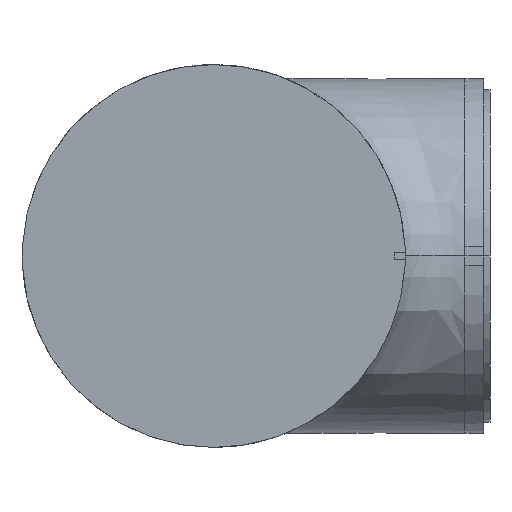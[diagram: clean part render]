
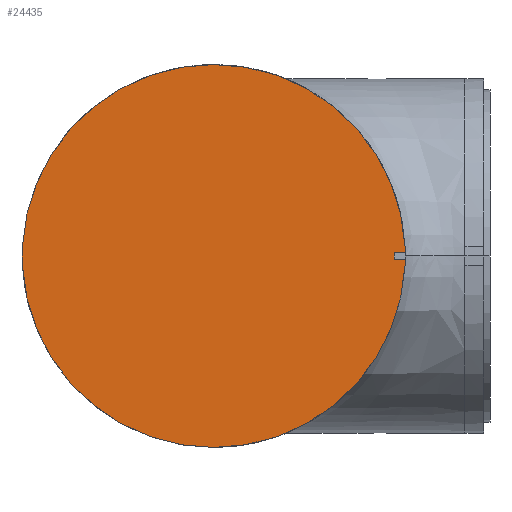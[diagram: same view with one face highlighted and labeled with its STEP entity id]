
A CAD part, left-side view. The second image highlights one B-rep face of the part: STEP entity #24435.
In plain terms, the highlighted planar face has unit normal (-1, 0, 0).
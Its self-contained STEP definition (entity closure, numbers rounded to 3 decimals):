
#1332 = EDGE_CURVE ( 'NONE', #10817, #29319, #10961, .T. ) ;
#1666 = VECTOR ( 'NONE', #1717, 1000. ) ;
#1675 = LINE ( 'NONE', #22993, #53629 ) ;
#1717 = DIRECTION ( 'NONE',  ( 0., 0.052, -0.999 ) ) ;
#1971 = CIRCLE ( 'NONE', #32923, 61. ) ;
#2676 = DIRECTION ( 'NONE',  ( 1., 0., 0. ) ) ;
#4336 = VECTOR ( 'NONE', #28418, 1000. ) ;
#4726 = EDGE_CURVE ( 'NONE', #34435, #19578, #6421, .T. ) ;
#4765 = DIRECTION ( 'NONE',  ( -1., 0., 0. ) ) ;
#6076 = VERTEX_POINT ( 'NONE', #46450 ) ;
#6421 = LINE ( 'NONE', #36079, #1666 ) ;
#6500 = CARTESIAN_POINT ( 'NONE',  ( 401., 121.016, 1185.692 ) ) ;
#7355 = CARTESIAN_POINT ( 'NONE',  ( 401., 60.1, 1121.5 ) ) ;
#7359 = ORIENTED_EDGE ( 'NONE', *, *, #14822, .T. ) ;
#7778 = EDGE_CURVE ( 'NONE', #29319, #47375, #1971, .T. ) ;
#9449 = DIRECTION ( 'NONE',  ( 0., 0., 1. ) ) ;
#9707 = CIRCLE ( 'NONE', #16790, 57.5 ) ;
#10545 = EDGE_CURVE ( 'NONE', #6076, #13146, #1675, .T. ) ;
#10553 = FACE_OUTER_BOUND ( 'NONE', #13829, .T. ) ;
#10817 = VERTEX_POINT ( 'NONE', #44354 ) ;
#10961 = LINE ( 'NONE', #23711, #4336 ) ;
#11512 = CARTESIAN_POINT ( 'NONE',  ( 401., -0.816, 1185.692 ) ) ;
#12325 = ORIENTED_EDGE ( 'NONE', *, *, #1332, .F. ) ;
#12360 = EDGE_CURVE ( 'NONE', #43976, #34435, #18046, .T. ) ;
#13146 = VERTEX_POINT ( 'NONE', #19026 ) ;
#13829 = EDGE_LOOP ( 'NONE', ( #26641, #33711, #51466, #12325, #51195, #52901, #34226, #25890, #47190, #7359 ) ) ;
#13888 = DIRECTION ( 'NONE',  ( 0., -1., 0. ) ) ;
#14320 = CARTESIAN_POINT ( 'NONE',  ( 401., 60.1, 1182.5 ) ) ;
#14332 = CIRCLE ( 'NONE', #49748, 61. ) ;
#14822 = EDGE_CURVE ( 'NONE', #43976, #13146, #9707, .T. ) ;
#15306 = CARTESIAN_POINT ( 'NONE',  ( 401., -0.816, 1179.308 ) ) ;
#16484 = CARTESIAN_POINT ( 'NONE',  ( 401., -0.984, 1182.5 ) ) ;
#16790 = AXIS2_PLACEMENT_3D ( 'NONE', #25808, #4765, #21651 ) ;
#18046 = LINE ( 'NONE', #51863, #50964 ) ;
#18297 = DIRECTION ( 'NONE',  ( 0., 0., 1. ) ) ;
#19026 = CARTESIAN_POINT ( 'NONE',  ( 401., 2.609, 1183.5 ) ) ;
#19578 = VERTEX_POINT ( 'NONE', #15306 ) ;
#21651 = DIRECTION ( 'NONE',  ( 0., 0., 1. ) ) ;
#22638 = DIRECTION ( 'NONE',  ( 0., 0., 1. ) ) ;
#22993 = CARTESIAN_POINT ( 'NONE',  ( 401., 8.1, 1183.5 ) ) ;
#23711 = CARTESIAN_POINT ( 'NONE',  ( 401., 121.016, 1185.692 ) ) ;
#23866 = VERTEX_POINT ( 'NONE', #7355 ) ;
#24435 = ADVANCED_FACE ( 'NONE', ( #10553 ), #35230, .T. ) ;
#25808 = CARTESIAN_POINT ( 'NONE',  ( 401., 60.1, 1182.5 ) ) ;
#25890 = ORIENTED_EDGE ( 'NONE', *, *, #4726, .F. ) ;
#26596 = DIRECTION ( 'NONE',  ( 0., 1., 0. ) ) ;
#26641 = ORIENTED_EDGE ( 'NONE', *, *, #10545, .F. ) ;
#27454 = VECTOR ( 'NONE', #45883, 1000. ) ;
#27675 = EDGE_CURVE ( 'NONE', #19578, #23866, #14332, .T. ) ;
#28418 = DIRECTION ( 'NONE',  ( 0., -0.052, 0.999 ) ) ;
#28672 = CARTESIAN_POINT ( 'NONE',  ( 401., 121.016, 1179.308 ) ) ;
#29319 = VERTEX_POINT ( 'NONE', #6500 ) ;
#29512 = CIRCLE ( 'NONE', #42814, 61. ) ;
#29896 = EDGE_CURVE ( 'NONE', #35396, #10817, #37439, .T. ) ;
#31397 = EDGE_CURVE ( 'NONE', #47375, #6076, #41460, .T. ) ;
#31425 = CARTESIAN_POINT ( 'NONE',  ( 401., 2.609, 1181.5 ) ) ;
#31880 = DIRECTION ( 'NONE',  ( 1., 0., 0. ) ) ;
#32923 = AXIS2_PLACEMENT_3D ( 'NONE', #48516, #31880, #18297 ) ;
#33711 = ORIENTED_EDGE ( 'NONE', *, *, #31397, .F. ) ;
#34226 = ORIENTED_EDGE ( 'NONE', *, *, #27675, .F. ) ;
#34435 = VERTEX_POINT ( 'NONE', #34924 ) ;
#34924 = CARTESIAN_POINT ( 'NONE',  ( 401., -0.931, 1181.5 ) ) ;
#35230 = PLANE ( 'NONE',  #42489 ) ;
#35396 = VERTEX_POINT ( 'NONE', #28672 ) ;
#35678 = DIRECTION ( 'NONE',  ( 1., 0., 0. ) ) ;
#36079 = CARTESIAN_POINT ( 'NONE',  ( 401., -0.984, 1182.5 ) ) ;
#36639 = CARTESIAN_POINT ( 'NONE',  ( 401., 121.016, 1179.308 ) ) ;
#37439 = LINE ( 'NONE', #36639, #53148 ) ;
#37717 = DIRECTION ( 'NONE',  ( 0., 0.052, 0.999 ) ) ;
#40634 = EDGE_CURVE ( 'NONE', #23866, #35396, #29512, .T. ) ;
#40641 = CARTESIAN_POINT ( 'NONE',  ( 401., 60.1, 1182.5 ) ) ;
#41460 = LINE ( 'NONE', #16484, #27454 ) ;
#42489 = AXIS2_PLACEMENT_3D ( 'NONE', #47430, #47704, #9449 ) ;
#42814 = AXIS2_PLACEMENT_3D ( 'NONE', #14320, #35678, #22638 ) ;
#43976 = VERTEX_POINT ( 'NONE', #31425 ) ;
#44354 = CARTESIAN_POINT ( 'NONE',  ( 401., 121.184, 1182.5 ) ) ;
#45883 = DIRECTION ( 'NONE',  ( 0., -0.052, -0.999 ) ) ;
#46450 = CARTESIAN_POINT ( 'NONE',  ( 401., -0.931, 1183.5 ) ) ;
#47190 = ORIENTED_EDGE ( 'NONE', *, *, #12360, .F. ) ;
#47375 = VERTEX_POINT ( 'NONE', #11512 ) ;
#47430 = CARTESIAN_POINT ( 'NONE',  ( 401., 60.1, 1182.5 ) ) ;
#47704 = DIRECTION ( 'NONE',  ( -1., 0., 0. ) ) ;
#48109 = DIRECTION ( 'NONE',  ( 0., 0., 1. ) ) ;
#48516 = CARTESIAN_POINT ( 'NONE',  ( 401., 60.1, 1182.5 ) ) ;
#49748 = AXIS2_PLACEMENT_3D ( 'NONE', #40641, #2676, #48109 ) ;
#50964 = VECTOR ( 'NONE', #13888, 1000. ) ;
#51195 = ORIENTED_EDGE ( 'NONE', *, *, #29896, .F. ) ;
#51466 = ORIENTED_EDGE ( 'NONE', *, *, #7778, .F. ) ;
#51863 = CARTESIAN_POINT ( 'NONE',  ( 401., 8.1, 1181.5 ) ) ;
#52901 = ORIENTED_EDGE ( 'NONE', *, *, #40634, .F. ) ;
#53148 = VECTOR ( 'NONE', #37717, 1000. ) ;
#53629 = VECTOR ( 'NONE', #26596, 1000. ) ;
